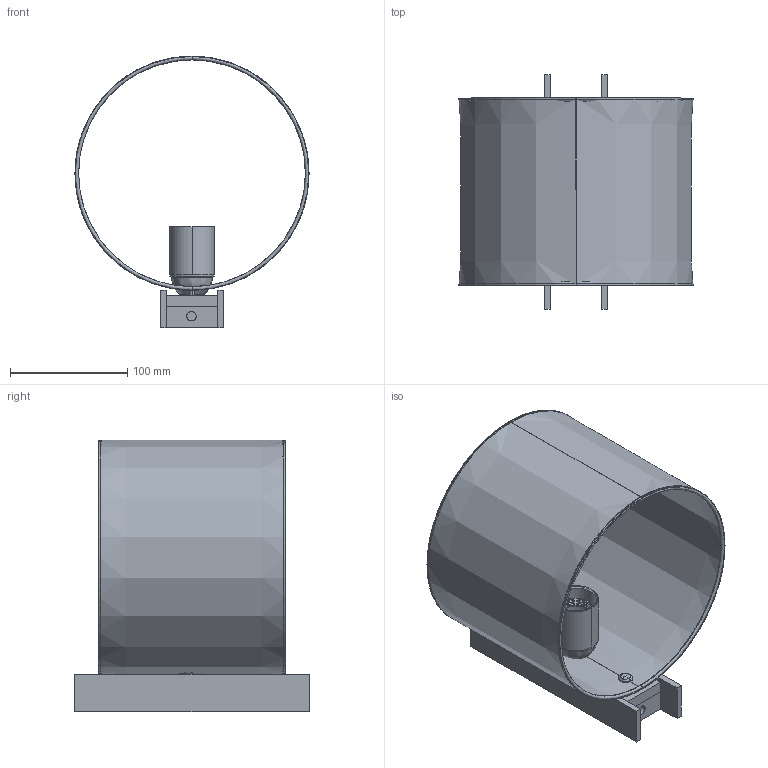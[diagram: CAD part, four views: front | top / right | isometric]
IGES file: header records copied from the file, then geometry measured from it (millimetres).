
Start section: SolidWorks IGES file using analytic representation for surfaces
Global section: file name: C:\SANTACOLE_PDM\Proyectos Catálogo\PROD-P10-005 -- TMM APLIQUES\6_Técnico comercial\3D\TMM Corto\TMM Corto.IGS; native system: SolidWorks 2019; preprocessor: SolidWorks 2019; author: ana.pascual; date: 200402.181025; units: millimetre
Bounding box: 200 x 200 x 232 mm (x, y, z)
Surface area: 301634.6 mm2 (no closed solid volume)
Topology: 0 solids, 0 shells, 462 faces, 5364 edges, 5362 vertices
Faces by surface type: revolution 233, bspline 229
